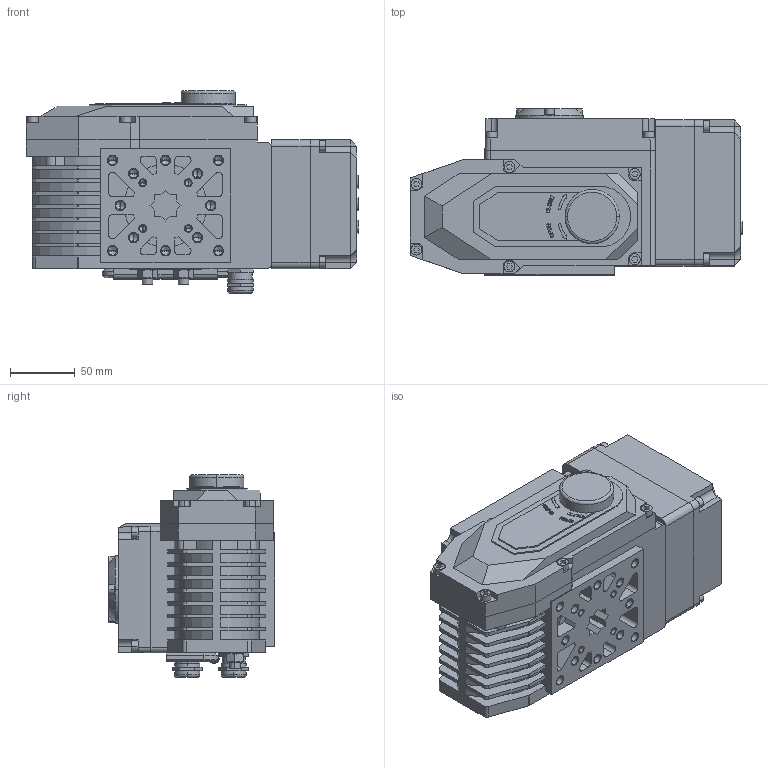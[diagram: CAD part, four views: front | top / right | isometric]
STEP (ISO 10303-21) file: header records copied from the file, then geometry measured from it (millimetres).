
FILE_DESCRIPTION((''),'2;1');
FILE_NAME('ELECTROPRIVOD_WITH_DISPLAY_ASM','2024-09-01T',('AMD'),(''),'PRO/ENGINEER BY PARAMETRIC TECHNOLOGY CORPORATION, 2008020','PRO/ENGINEER BY PARAMETRIC TECHNOLOGY CORPORATION, 2008020','');
FILE_SCHEMA(('CONFIG_CONTROL_DESIGN'));
Length unit declared in the file: millimetre
Products named in the file (13): DET_1; V-11738-M5; V-11738-M4; DET_2; KREPLENIE; KLUCH; DET_3; G-5915-M8; ELECTROPRIVOD_ASM; DET_4; DET_5; DISPLAY_ASM; ELECTROPRIVOD_WITH_DISPLAY_ASM
Assembly tree (29 placements, depth 3):
  ELECTROPRIVOD_WITH_DISPLAY_ASM
    ELECTROPRIVOD_ASM
      DET_1
      V-11738-M5  x10
      V-11738-M4  x4
      DET_2
      KREPLENIE
      KLUCH
      DET_3
      G-5915-M8  x2
    DISPLAY_ASM
      DET_4
      DET_5
      V-11738-M5  x4
Bounding box: 257 x 128.5 x 157 mm (x, y, z)
Volume: 2910440 mm3; surface area: 300625 mm2
Topology: 27 solids, 63 shells, 2246 faces, 6015 edges, 3984 vertices
Faces by surface type: plane 1536, cylinder 346, extrusion 300, cone 58, torus 6
Entity records: 62715 total; most frequent: CARTESIAN_POINT 13412, ORIENTED_EDGE 10582, DIRECTION 9031, EDGE_CURVE 5331, VECTOR 4421, LINE 4121, VERTEX_POINT 3540, AXIS2_PLACEMENT_3D 2305
